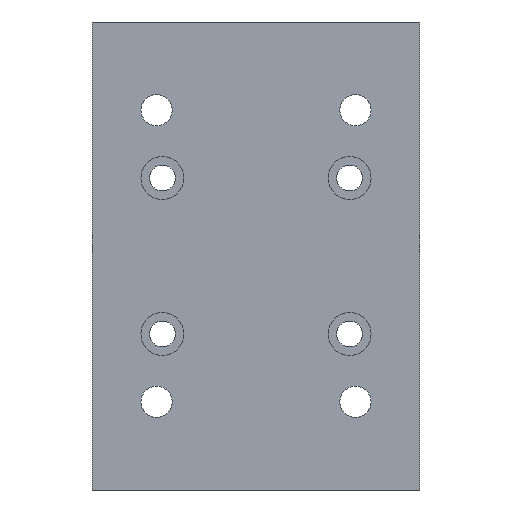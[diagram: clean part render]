
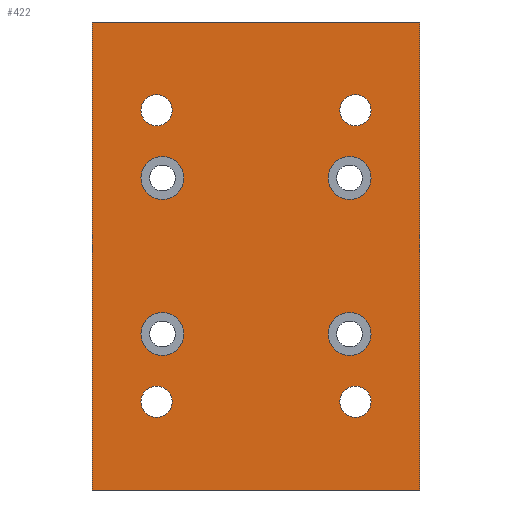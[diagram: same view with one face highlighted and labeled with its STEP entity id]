
A CAD part, front view. The second image highlights one B-rep face of the part: STEP entity #422.
In plain terms, the highlighted planar face has unit normal (0, -1, 0).
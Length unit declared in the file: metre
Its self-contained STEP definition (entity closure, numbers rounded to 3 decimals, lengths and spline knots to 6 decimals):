
#14=LINE('',#680,#26);
#18=LINE('',#688,#30);
#21=LINE('',#694,#33);
#23=LINE('',#712,#35);
#26=VECTOR('',#545,1.);
#30=VECTOR('',#551,1.);
#33=VECTOR('',#556,1.);
#35=VECTOR('',#578,1.);
#40=PLANE('',#481);
#82=ORIENTED_EDGE('',*,*,#148,.F.);
#83=ORIENTED_EDGE('',*,*,#152,.T.);
#84=ORIENTED_EDGE('',*,*,#155,.T.);
#85=ORIENTED_EDGE('',*,*,#163,.F.);
#86=ORIENTED_EDGE('',*,*,#161,.F.);
#87=ORIENTED_EDGE('',*,*,#159,.F.);
#88=ORIENTED_EDGE('',*,*,#157,.F.);
#89=ORIENTED_EDGE('',*,*,#165,.F.);
#90=ORIENTED_EDGE('',*,*,#166,.F.);
#91=ORIENTED_EDGE('',*,*,#167,.F.);
#92=ORIENTED_EDGE('',*,*,#168,.F.);
#93=ORIENTED_EDGE('',*,*,#169,.F.);
#148=EDGE_CURVE('',#192,#193,#14,.T.);
#152=EDGE_CURVE('',#192,#195,#18,.T.);
#155=EDGE_CURVE('',#195,#197,#21,.T.);
#157=EDGE_CURVE('',#199,#199,#231,.T.);
#159=EDGE_CURVE('',#201,#201,#233,.T.);
#161=EDGE_CURVE('',#203,#203,#235,.T.);
#163=EDGE_CURVE('',#193,#197,#23,.T.);
#165=EDGE_CURVE('',#205,#205,#237,.T.);
#166=EDGE_CURVE('',#206,#206,#238,.T.);
#167=EDGE_CURVE('',#207,#207,#239,.T.);
#168=EDGE_CURVE('',#208,#208,#240,.T.);
#169=EDGE_CURVE('',#209,#209,#241,.T.);
#192=VERTEX_POINT('',#679);
#193=VERTEX_POINT('',#681);
#195=VERTEX_POINT('',#687);
#197=VERTEX_POINT('',#693);
#199=VERTEX_POINT('',#699);
#201=VERTEX_POINT('',#704);
#203=VERTEX_POINT('',#709);
#205=VERTEX_POINT('',#717);
#206=VERTEX_POINT('',#720);
#207=VERTEX_POINT('',#722);
#208=VERTEX_POINT('',#724);
#209=VERTEX_POINT('',#726);
#231=CIRCLE('',#470,0.00275);
#233=CIRCLE('',#473,0.00275);
#235=CIRCLE('',#476,0.00275);
#237=CIRCLE('',#480,0.00275);
#238=CIRCLE('',#482,0.002);
#239=CIRCLE('',#483,0.002);
#240=CIRCLE('',#484,0.002);
#241=CIRCLE('',#485,0.002);
#274=EDGE_LOOP('',(#82,#83,#84,#85));
#275=EDGE_LOOP('',(#86));
#276=EDGE_LOOP('',(#87));
#277=EDGE_LOOP('',(#88));
#278=EDGE_LOOP('',(#89));
#279=EDGE_LOOP('',(#90));
#280=EDGE_LOOP('',(#91));
#281=EDGE_LOOP('',(#92));
#282=EDGE_LOOP('',(#93));
#344=FACE_BOUND('',#274,.T.);
#345=FACE_BOUND('',#275,.T.);
#346=FACE_BOUND('',#276,.T.);
#347=FACE_BOUND('',#277,.T.);
#348=FACE_BOUND('',#278,.T.);
#349=FACE_BOUND('',#279,.T.);
#350=FACE_BOUND('',#280,.T.);
#351=FACE_BOUND('',#281,.T.);
#352=FACE_BOUND('',#282,.T.);
#422=ADVANCED_FACE('',(#344,#345,#346,#347,#348,#349,#350,#351,#352),#40,
 .T.);
#470=AXIS2_PLACEMENT_3D('',#698,#561,#562);
#473=AXIS2_PLACEMENT_3D('',#703,#567,#568);
#476=AXIS2_PLACEMENT_3D('',#708,#573,#574);
#480=AXIS2_PLACEMENT_3D('',#716,#583,#584);
#481=AXIS2_PLACEMENT_3D('',#718,#585,#586);
#482=AXIS2_PLACEMENT_3D('',#719,#587,#588);
#483=AXIS2_PLACEMENT_3D('',#721,#589,#590);
#484=AXIS2_PLACEMENT_3D('',#723,#591,#592);
#485=AXIS2_PLACEMENT_3D('',#725,#593,#594);
#545=DIRECTION('',(0.,0.,1.));
#551=DIRECTION('',(1.,0.,0.));
#556=DIRECTION('',(0.,0.,1.));
#561=DIRECTION('',(0.,-1.,0.));
#562=DIRECTION('',(0.,0.,-1.));
#567=DIRECTION('',(0.,-1.,0.));
#568=DIRECTION('',(0.,0.,-1.));
#573=DIRECTION('',(0.,-1.,0.));
#574=DIRECTION('',(0.,0.,-1.));
#578=DIRECTION('',(1.,0.,0.));
#583=DIRECTION('',(0.,-1.,0.));
#584=DIRECTION('',(0.,0.,-1.));
#585=DIRECTION('',(0.,-1.,0.));
#586=DIRECTION('',(1.,0.,0.));
#587=DIRECTION('',(0.,-1.,0.));
#588=DIRECTION('',(0.,0.,-1.));
#589=DIRECTION('',(0.,-1.,0.));
#590=DIRECTION('',(0.,0.,-1.));
#591=DIRECTION('',(0.,-1.,0.));
#592=DIRECTION('',(0.,0.,-1.));
#593=DIRECTION('',(0.,-1.,0.));
#594=DIRECTION('',(0.,0.,-1.));
#679=CARTESIAN_POINT('',(-0.021,-0.008,-0.03));
#680=CARTESIAN_POINT('',(-0.021,-0.008,0.));
#681=CARTESIAN_POINT('',(-0.021,-0.008,0.03));
#687=CARTESIAN_POINT('',(0.021,-0.008,-0.03));
#688=CARTESIAN_POINT('',(0.,-0.008,-0.03));
#693=CARTESIAN_POINT('',(0.021,-0.008,0.03));
#694=CARTESIAN_POINT('',(0.021,-0.008,0.));
#698=CARTESIAN_POINT('',(0.012,-0.008,-0.01));
#699=CARTESIAN_POINT('',(0.012,-0.008,-0.01275));
#703=CARTESIAN_POINT('',(-0.012,-0.008,0.01));
#704=CARTESIAN_POINT('',(-0.012,-0.008,0.00725));
#708=CARTESIAN_POINT('',(0.012,-0.008,0.01));
#709=CARTESIAN_POINT('',(0.012,-0.008,0.00725));
#712=CARTESIAN_POINT('',(0.,-0.008,0.03));
#716=CARTESIAN_POINT('',(-0.012,-0.008,-0.01));
#717=CARTESIAN_POINT('',(-0.012,-0.008,-0.01275));
#718=CARTESIAN_POINT('',(0.,-0.008,0.));
#719=CARTESIAN_POINT('',(0.01275,-0.008,-0.0187));
#720=CARTESIAN_POINT('',(0.01275,-0.008,-0.0207));
#721=CARTESIAN_POINT('',(-0.01275,-0.008,-0.0187));
#722=CARTESIAN_POINT('',(-0.01275,-0.008,-0.0207));
#723=CARTESIAN_POINT('',(-0.01275,-0.008,0.0187));
#724=CARTESIAN_POINT('',(-0.01275,-0.008,0.0167));
#725=CARTESIAN_POINT('',(0.01275,-0.008,0.0187));
#726=CARTESIAN_POINT('',(0.01275,-0.008,0.0167));
